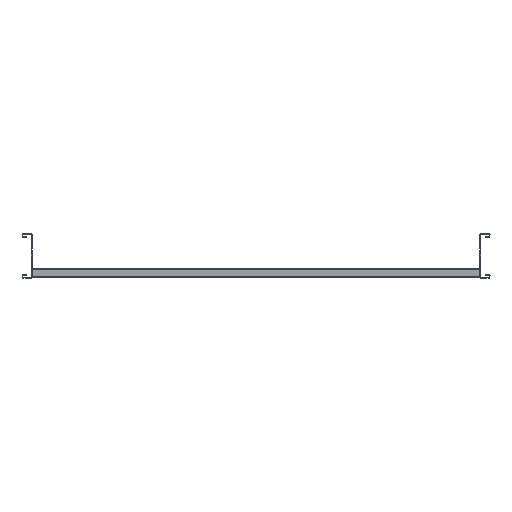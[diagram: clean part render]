
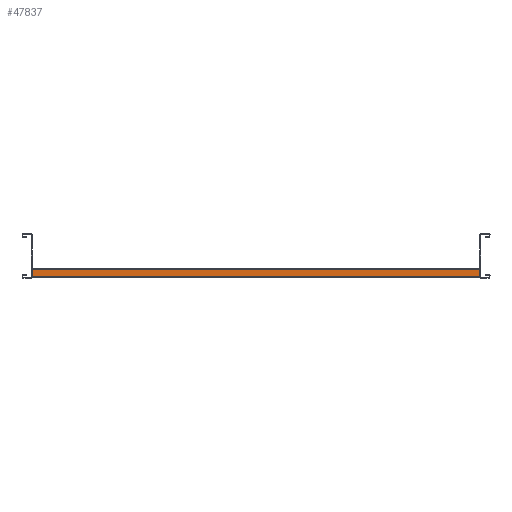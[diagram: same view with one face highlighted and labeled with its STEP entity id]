
A CAD part, left-side view. The second image highlights one B-rep face of the part: STEP entity #47837.
In plain terms, the highlighted planar face has unit normal (-1, 0, 0) as drawn and (0, 1, 0) by its records, which use the part's own axes.
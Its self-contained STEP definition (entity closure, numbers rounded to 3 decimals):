
#3303=FACE_OUTER_BOUND('',#6561,.T.);
#6561=EDGE_LOOP('',(#42954,#42955,#42956,#42957));
#12911=LINE('',#73396,#19231);
#12917=LINE('',#73413,#19237);
#13138=LINE('',#74258,#19458);
#13139=LINE('',#74260,#19459);
#19231=VECTOR('',#60386,304.8);
#19237=VECTOR('',#60398,304.8);
#19458=VECTOR('',#61047,304.8);
#19459=VECTOR('',#61050,304.8);
#23626=VERTEX_POINT('',#73393);
#23627=VERTEX_POINT('',#73395);
#23634=VERTEX_POINT('',#73410);
#23635=VERTEX_POINT('',#73412);
#29986=EDGE_CURVE('',#23626,#23627,#12911,.T.);
#29994=EDGE_CURVE('',#23634,#23635,#12917,.T.);
#30418=EDGE_CURVE('',#23635,#23626,#13138,.T.);
#30419=EDGE_CURVE('',#23634,#23627,#13139,.T.);
#42954=ORIENTED_EDGE('',*,*,#29986,.F.);
#42955=ORIENTED_EDGE('',*,*,#30418,.F.);
#42956=ORIENTED_EDGE('',*,*,#29994,.F.);
#42957=ORIENTED_EDGE('',*,*,#30419,.T.);
#45740=PLANE('',#50298);
#47837=ADVANCED_FACE('',(#3303),#45740,.T.);
#50298=AXIS2_PLACEMENT_3D('',#74259,#61048,#61049);
#60386=DIRECTION('',(0.,0.,-1.));
#60398=DIRECTION('',(0.,0.,1.));
#61047=DIRECTION('',(-1.,0.,0.));
#61048=DIRECTION('center_axis',(0.,1.,0.));
#61049=DIRECTION('ref_axis',(1.,0.,0.));
#61050=DIRECTION('',(-1.,0.,0.));
#73393=CARTESIAN_POINT('',(0.,20.,8.5));
#73395=CARTESIAN_POINT('',(0.,20.,-8.5));
#73396=CARTESIAN_POINT('',(0.,20.,8.5));
#73410=CARTESIAN_POINT('',(1000.,20.,-8.5));
#73412=CARTESIAN_POINT('',(1000.,20.,8.5));
#73413=CARTESIAN_POINT('',(1000.,20.,-8.5));
#74258=CARTESIAN_POINT('',(0.,20.,8.5));
#74259=CARTESIAN_POINT('Origin',(0.,20.,8.5));
#74260=CARTESIAN_POINT('',(0.,20.,-8.5));
